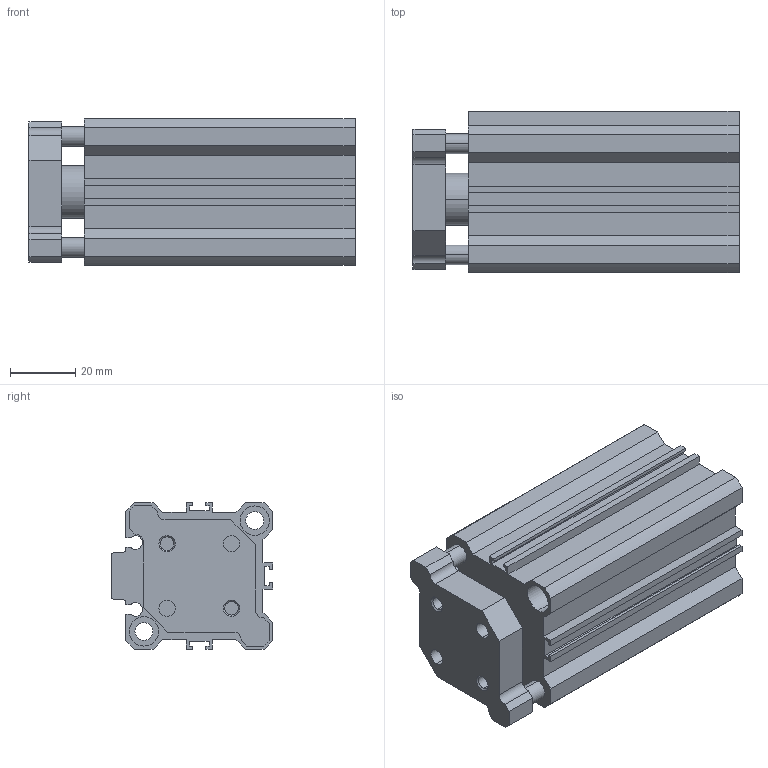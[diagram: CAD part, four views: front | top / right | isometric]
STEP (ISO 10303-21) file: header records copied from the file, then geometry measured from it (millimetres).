
FILE_DESCRIPTION (( 'STEP AP203' ), '1' );
FILE_NAME ('CCMG32-50.STEP', '2020-04-01T18:40:29', ( '' ), ( '' ), 'SwSTEP 2.0', 'SolidWorks 2019', '' );
FILE_SCHEMA (( 'CONFIG_CONTROL_DESIGN' ));
Length unit declared in the file: millimetre
Products named in the file (1): CCMG32-50
Bounding box: 100 x 49.5 x 45 mm (x, y, z)
Volume: 130874.3 mm3; surface area: 51190.5 mm2
Topology: 2 solids, 2 shells, 165 faces, 431 edges, 280 vertices
Faces by surface type: plane 92, cylinder 57, cone 16
Entity records: 5134 total; most frequent: DIRECTION 885, CARTESIAN_POINT 873, ORIENTED_EDGE 854, EDGE_CURVE 427, LINE 301, VECTOR 301, AXIS2_PLACEMENT_3D 292, VERTEX_POINT 280
